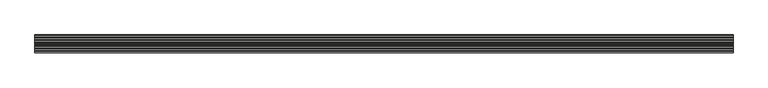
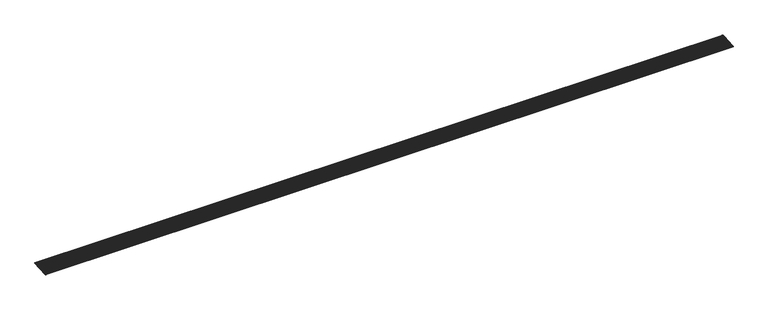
"""IFC4 building model written with IfcOpenShell, lengths in millimetres: slab geometry, ROSA GRES_001 (2 filas) : Piezas 001_Aqua_Blanco_Anti-Slip."""

from ifc_helpers import new_model, si_unit, point, frame, frame_2d, origin, place, context, project, spatial, polyline, circle_curve, trimmed, segment, composite_curve, outline, extrude, source, transform, mapped, element, save


def slab_b30ec969(model_context):
    return source(origin(), model_context, "Body", "SweptSolid", [
        extrude(outline(polyline([(0.0, -118.9996), (0.0, 0.0), (9502.6320351, 0.0), (9502.6320351, -118.9996), (0.0, -118.9996)])), frame((9502.6320351, 124.0577627, 199.6968204), z_axis=(0.0, -0.08112705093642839, 0.9967037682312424), x_axis=(-1.0, 0.0, 0.0)), (0.0, 0.0, 1.0), 5.0),
        extrude(outline(polyline([(0.0, -118.9996), (0.0, 0.0), (9502.6320351, 0.0), (9502.6320351, -118.9996), (0.0, -118.9996)])), frame((9502.6320351, 248.6453351, 209.8376693), z_axis=(0.0, -0.08112705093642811, 0.9967037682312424), x_axis=(-1.0, 0.0, 0.0)), (0.0, 0.0, 1.0), 5.0),
        extrude(outline(composite_curve([segment(polyline([(242.2594772, 214.3344258), (123.6521274, 204.6803392), (123.4389282, 207.2996439)]), True, "CONTINUOUS"), segment(trimmed(circle_curve(frame_2d((122.9853249, 212.8724843)), 5.5912705), [point((123.4389282, 207.2996439))], [point((127.5160501, 209.5960785))], True, "CARTESIAN"), True, "CONTINUOUS"), segment(trimmed(circle_curve(frame_2d((131.4572785, 213.5620619)), 5.5912705), [point((127.5160501, 209.5960785))], [point((135.9880037, 210.2856561))], True, "CARTESIAN"), True, "CONTINUOUS"), segment(trimmed(circle_curve(frame_2d((139.929232, 214.2516395)), 5.5912705), [point((135.9880037, 210.2856561))], [point((144.4599572, 210.9752337))], True, "CARTESIAN"), True, "CONTINUOUS"), segment(trimmed(circle_curve(frame_2d((148.4011856, 214.9412171)), 5.5912705), [point((144.4599572, 210.9752337))], [point((152.9319108, 211.6648113))], True, "CARTESIAN"), True, "CONTINUOUS"), segment(trimmed(circle_curve(frame_2d((156.8731392, 215.6307947)), 5.5912705), [point((152.9319108, 211.6648113))], [point((161.4038643, 212.3543889))], True, "CARTESIAN"), True, "CONTINUOUS"), segment(trimmed(circle_curve(frame_2d((165.3450927, 216.3203723)), 5.5912705), [point((161.4038643, 212.3543889))], [point((169.8758179, 213.0439666))], True, "CARTESIAN"), True, "CONTINUOUS"), segment(trimmed(circle_curve(frame_2d((173.8170463, 217.00995)), 5.5912705), [point((169.8758179, 213.0439666))], [point((178.3477714, 213.7335442))], True, "CARTESIAN"), True, "CONTINUOUS"), segment(trimmed(circle_curve(frame_2d((182.2889998, 217.6995276)), 5.5912705), [point((178.3477714, 213.7335442))], [point((186.819725, 214.4231218))], True, "CARTESIAN"), True, "CONTINUOUS"), segment(trimmed(circle_curve(frame_2d((190.7609534, 218.3891052)), 5.5912705), [point((186.819725, 214.4231218))], [point((195.2916785, 215.1126994))], True, "CARTESIAN"), True, "CONTINUOUS"), segment(trimmed(circle_curve(frame_2d((199.2329069, 219.0786828)), 5.5912705), [point((195.2916785, 215.1126994))], [point((203.7636321, 215.802277))], True, "CARTESIAN"), True, "CONTINUOUS"), segment(trimmed(circle_curve(frame_2d((207.7048605, 219.7682604)), 5.5912705), [point((203.7636321, 215.802277))], [point((212.2355856, 216.4918546))], True, "CARTESIAN"), True, "CONTINUOUS"), segment(trimmed(circle_curve(frame_2d((216.176814, 220.457838)), 5.5912705), [point((212.2355856, 216.4918546))], [point((220.7075392, 217.1814322))], True, "CARTESIAN"), True, "CONTINUOUS"), segment(trimmed(circle_curve(frame_2d((224.6487676, 221.1474157)), 5.5912705), [point((220.7075392, 217.1814322))], [point((229.1794928, 217.8710099))], True, "CARTESIAN"), True, "CONTINUOUS"), segment(trimmed(circle_curve(frame_2d((233.1207211, 221.8369933)), 5.5912705), [point((229.1794928, 217.8710099))], [point((237.6514463, 218.5605875))], True, "CARTESIAN"), True, "CONTINUOUS"), segment(trimmed(circle_curve(frame_2d((241.5926747, 222.5265709)), 5.5912705), [point((237.6514463, 218.5605875))], [point((242.046278, 216.9537305))], True, "CARTESIAN"), True, "CONTINUOUS"), segment(polyline([(242.046278, 216.9537305), (242.2594772, 214.3344258)]), True, "CONTINUOUS")], self_intersect=False)), frame((0.0, 0.0, 0.0), z_axis=(1.0, 0.0, 0.0), x_axis=(0.0, 1.0, 0.0)), (0.0, 0.0, 1.0), 9502.6320351),
        extrude(outline(composite_curve([segment(polyline([(366.8470495, 224.4752747), (248.2396998, 214.8211881), (248.0265006, 217.4404928)]), True, "CONTINUOUS"), segment(trimmed(circle_curve(frame_2d((247.5728973, 223.0133332)), 5.5912705), [point((248.0265006, 217.4404928))], [point((252.1036225, 219.7369274))], True, "CARTESIAN"), True, "CONTINUOUS"), segment(trimmed(circle_curve(frame_2d((256.0448508, 223.7029108)), 5.5912705), [point((252.1036225, 219.7369274))], [point((260.575576, 220.426505))], True, "CARTESIAN"), True, "CONTINUOUS"), segment(trimmed(circle_curve(frame_2d((264.5168044, 224.3924884)), 5.5912705), [point((260.575576, 220.426505))], [point((269.0475296, 221.1160826))], True, "CARTESIAN"), True, "CONTINUOUS"), segment(trimmed(circle_curve(frame_2d((272.9887579, 225.082066)), 5.5912705), [point((269.0475296, 221.1160826))], [point((277.5194831, 221.8056602))], True, "CARTESIAN"), True, "CONTINUOUS"), segment(trimmed(circle_curve(frame_2d((281.4607115, 225.7716436)), 5.5912705), [point((277.5194831, 221.8056602))], [point((285.9914367, 222.4952379))], True, "CARTESIAN"), True, "CONTINUOUS"), segment(trimmed(circle_curve(frame_2d((289.9326651, 226.4612213)), 5.5912705), [point((285.9914367, 222.4952379))], [point((294.4633902, 223.1848155))], True, "CARTESIAN"), True, "CONTINUOUS"), segment(trimmed(circle_curve(frame_2d((298.4046186, 227.1507989)), 5.5912705), [point((294.4633902, 223.1848155))], [point((302.9353438, 223.8743931))], True, "CARTESIAN"), True, "CONTINUOUS"), segment(trimmed(circle_curve(frame_2d((306.8765722, 227.8403765)), 5.5912705), [point((302.9353438, 223.8743931))], [point((311.4072973, 224.5639707))], True, "CARTESIAN"), True, "CONTINUOUS"), segment(trimmed(circle_curve(frame_2d((315.3485257, 228.5299541)), 5.5912705), [point((311.4072973, 224.5639707))], [point((319.8792509, 225.2535483))], True, "CARTESIAN"), True, "CONTINUOUS"), segment(trimmed(circle_curve(frame_2d((323.8204793, 229.2195317)), 5.5912705), [point((319.8792509, 225.2535483))], [point((328.3512044, 225.9431259))], True, "CARTESIAN"), True, "CONTINUOUS"), segment(trimmed(circle_curve(frame_2d((332.2924328, 229.9091093)), 5.5912705), [point((328.3512044, 225.9431259))], [point((336.823158, 226.6327035))], True, "CARTESIAN"), True, "CONTINUOUS"), segment(trimmed(circle_curve(frame_2d((340.7643864, 230.5986869)), 5.5912705), [point((336.823158, 226.6327035))], [point((345.2951115, 227.3222812))], True, "CARTESIAN"), True, "CONTINUOUS"), segment(trimmed(circle_curve(frame_2d((349.2363399, 231.2882646)), 5.5912705), [point((345.2951115, 227.3222812))], [point((353.7670651, 228.0118588))], True, "CARTESIAN"), True, "CONTINUOUS"), segment(trimmed(circle_curve(frame_2d((357.7082935, 231.9778422)), 5.5912705), [point((353.7670651, 228.0118588))], [point((362.2390187, 228.7014364))], True, "CARTESIAN"), True, "CONTINUOUS"), segment(trimmed(circle_curve(frame_2d((366.180247, 232.6674198)), 5.5912705), [point((362.2390187, 228.7014364))], [point((366.6338503, 227.0945794))], True, "CARTESIAN"), True, "CONTINUOUS"), segment(polyline([(366.6338503, 227.0945794), (366.8470495, 224.4752747)]), True, "CONTINUOUS")], self_intersect=False)), frame((0.0, 0.0, 0.0), z_axis=(1.0, 0.0, 0.0), x_axis=(0.0, 1.0, 0.0)), (0.0, 0.0, 1.0), 9502.6320351),
    ])


if __name__ == "__main__":
    model = new_model("IFC4")
    model_context = context("Model", 3, world=origin())
    ifc_project = project(units=[si_unit("LENGTHUNIT", "METRE", prefix="MILLI")], contexts=[model_context])
    site = spatial("IfcSite", under=ifc_project)
    building = spatial("IfcBuilding", under=site)
    placement = place(None, origin())
    slab_shape = slab_b30ec969(model_context)
    element("IfcSlab", 1, ObjectType="ROSA GRES_001 (2 filas) : Piezas 001_Aqua_Blanco_Anti-Slip", at=placement, inside=building, context=model_context, shape_type="MappedRepresentation", body=[
        mapped(slab_shape, transform((0.0, 0.0, 0.0), x_axis=(1.0, 0.0, 0.0), y_axis=(0.0, 1.0, 0.0), z_axis=(0.0, 0.0, 1.0))),
    ])
    save(model, "model.ifc")
